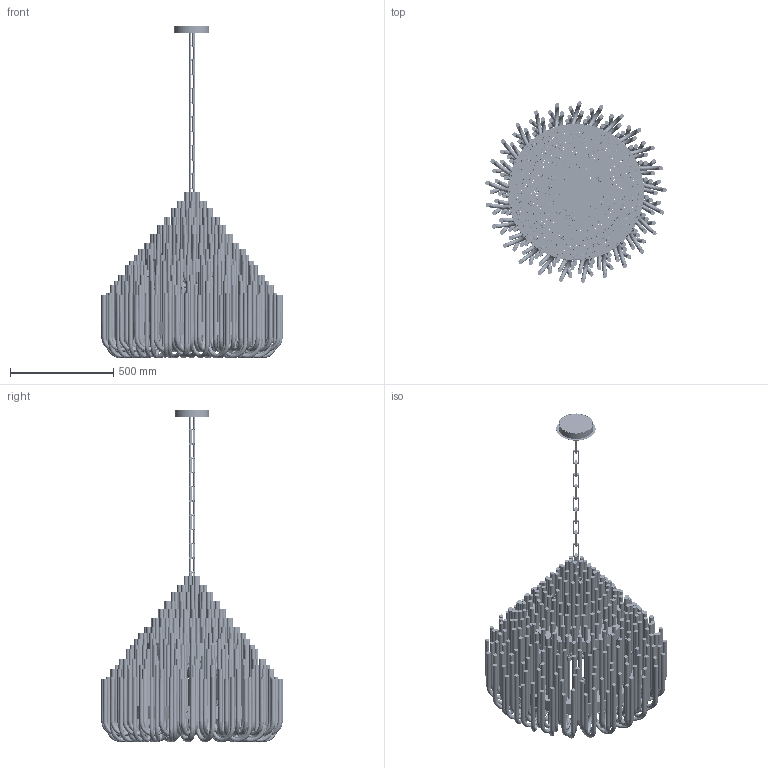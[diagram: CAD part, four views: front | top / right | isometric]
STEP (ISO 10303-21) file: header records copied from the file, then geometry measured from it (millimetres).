
FILE_DESCRIPTION(/* description */ (''),/* implementation_level */ '2;1');
FILE_NAME(/* name */ 'Ludwig S',/* time_stamp */ '2019-01-24T16:53:34+01:00',/* author */ (''),/* organization */ (''),/* preprocessor_version */ 'ST-DEVELOPER v15',/* originating_system */ '',/* authorisation */ '');
FILE_SCHEMA (('AUTOMOTIVE_DESIGN'));
Products named in the file (42): Document; zdroj 3; objímka; patice; zdroj 10; řetěz 5; plech 1; plech 2; řetěz 2; řetěz 1; řetěz 3; řetěz 4; sklo rovné 3; sklo rovné 4; sklo rovné 2; sklo rovné 5; sklo rovné 1; sklo rovné 6; krycí trubka světla 2; krycí trubka světla 1; zdroj 4; zdroj 8; zdroj 6; trubka 5; zdroj 9; trubka 2; zdroj 7; trubka 7; zdroj 1; trubka 1; sklo zahnuté 2; sklo zahnuté 1; sklo zahnuté 5; sklo zahnuté 7; sklo zahnuté 6; sklo zahnuté 3; sklo zahnuté 4; zdroj 5; trubka 4; zdroj 2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
Assembly tree (330 placements, depth 3):
  Document
    zdroj 3
      objímka
      patice
    zdroj 10  x16
      objímka
      patice
    řetěz 5  x2
    plech 1
    plech 2
    řetěz 2  x2
    řetěz 1  x2
    řetěz 3  x26
    řetěz 4  x14
    sklo rovné 3  x6
      sklo rovné 4
    sklo rovné 2  x8
      sklo rovné 5
    sklo rovné 1  x24
      sklo rovné 6
    krycí trubka světla 2  x2
    krycí trubka světla 1  x2
    zdroj 4
      objímka
      patice
    zdroj 8  x5
      objímka
      patice
    zdroj 6  x5
      trubka 5
      patice
      objímka
    zdroj 9  x8
      objímka
      patice
      trubka 2
    zdroj 7  x5
      objímka
      patice
      trubka 7
    zdroj 1  x6
      objímka
      patice
      trubka 1
    sklo zahnuté 2  x15
    sklo zahnuté 1  x15
    sklo zahnuté 5  x25
    sklo zahnuté 7  x25
    sklo zahnuté 6  x25
    sklo zahnuté 3  x25
    sklo zahnuté 4  x25
    zdroj 5
      objímka
      patice
      trubka 4
    zdroj 2  x3
      objímka
      patice
      trubka 3
    trubka 6  x5
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Bounding box: 876.79 x 877.37 x 1605.26 mm (x, y, z)
Volume: 21553310.7 mm3; surface area: 18221359.6 mm2
Topology: 388 solids, 543 shells, 8955 faces, 21744 edges, 13954 vertices
Faces by surface type: bspline 8955
Entity records: 131189 total; most frequent: CARTESIAN_POINT 72381, ORIENTED_EDGE 9416, PCURVE 9416, DEFINITIONAL_REPRESENTATION 9416, B_SPLINE_CURVE_WITH_KNOTS 7788, SURFACE_CURVE 4708, EDGE_CURVE 4708, VERTEX_POINT 3406
